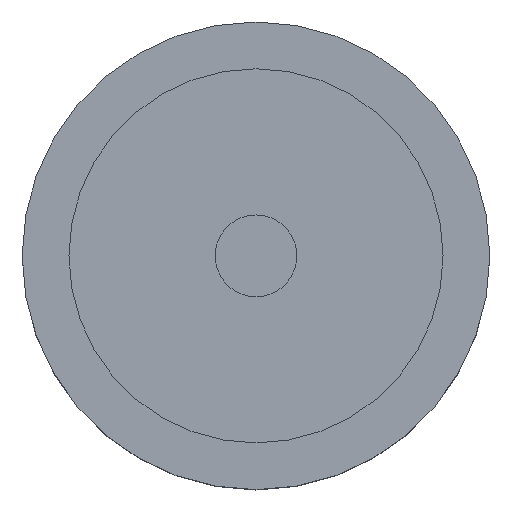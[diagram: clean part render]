
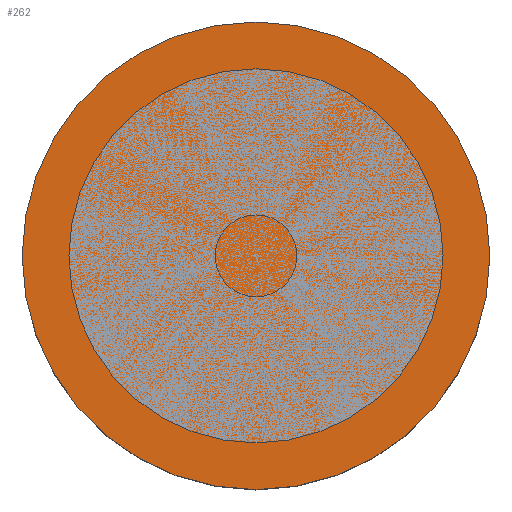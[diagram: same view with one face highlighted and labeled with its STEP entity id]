
A CAD part, top view. The second image highlights one B-rep face of the part: STEP entity #262.
In plain terms, the highlighted planar face has unit normal (0, 0, 1).
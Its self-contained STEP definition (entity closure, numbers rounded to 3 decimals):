
#227 = VERTEX_POINT('',#228);
#228 = CARTESIAN_POINT('',(10.,0.,8.));
#234 = EDGE_CURVE('',#227,#227,#235,.T.);
#235 = CIRCLE('',#236,10.);
#236 = AXIS2_PLACEMENT_3D('',#237,#238,#239);
#237 = CARTESIAN_POINT('',(0.,0.,8.));
#238 = DIRECTION('',(0.,0.,1.));
#239 = DIRECTION('',(1.,0.,0.));
#262 = ADVANCED_FACE('',(#263),#266,.T.);
#263 = FACE_BOUND('',#264,.T.);
#264 = EDGE_LOOP('',(#265));
#265 = ORIENTED_EDGE('',*,*,#234,.T.);
#266 = PLANE('',#267);
#267 = AXIS2_PLACEMENT_3D('',#268,#269,#270);
#268 = CARTESIAN_POINT('',(0.,0.,8.));
#269 = DIRECTION('',(0.,0.,1.));
#270 = DIRECTION('',(1.,0.,0.));
